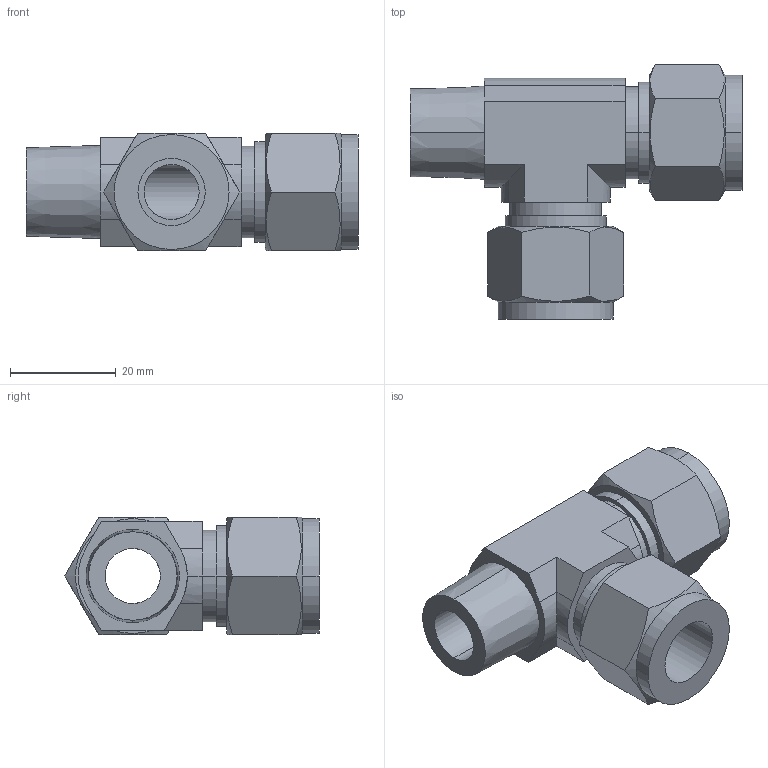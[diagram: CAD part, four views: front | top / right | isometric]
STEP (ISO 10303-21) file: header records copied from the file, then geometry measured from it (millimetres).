
FILE_DESCRIPTION (( 'STEP AP203' ), '1' );
FILE_NAME ('DTK 08-06 SS.STEP', '2009-09-08T10:03:22', ( ' ' ), ( '' ), 'SwSTEP 2.0', 'SolidWorks 2008', '' );
FILE_SCHEMA (( 'CONFIG_CONTROL_DESIGN' ));
Length unit declared in the file: millimetre
Products named in the file (1): DTK 08-06 SS
Bounding box: 62.7 x 48.03 x 22.23 mm (x, y, z)
Volume: 21264.2 mm3; surface area: 10496.7 mm2
Topology: 1 solids, 1 shells, 73 faces, 181 edges, 118 vertices
Faces by surface type: plane 36, cylinder 27, cone 10
Entity records: 2459 total; most frequent: CARTESIAN_POINT 666, ORIENTED_EDGE 362, DIRECTION 345, EDGE_CURVE 181, AXIS2_PLACEMENT_3D 129, VERTEX_POINT 118, VECTOR 87, LINE 87
